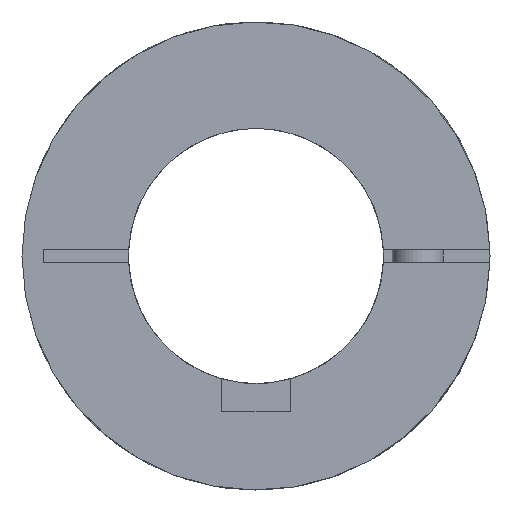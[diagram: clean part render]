
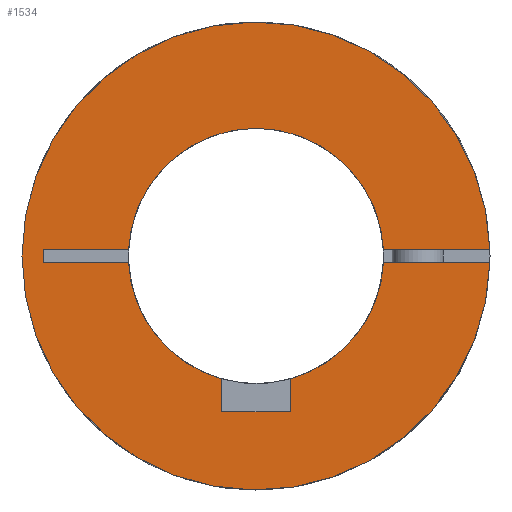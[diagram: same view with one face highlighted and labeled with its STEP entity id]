
A CAD part, left-side view. The second image highlights one B-rep face of the part: STEP entity #1534.
In plain terms, the highlighted planar face has unit normal (-1, 0, 0).
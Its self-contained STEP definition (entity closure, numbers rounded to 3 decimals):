
#51=PLANE('',#1747);
#138=LINE('',#2704,#245);
#141=LINE('',#2710,#248);
#142=LINE('',#2712,#249);
#154=LINE('',#2734,#261);
#158=LINE('',#2740,#265);
#169=LINE('',#2761,#276);
#170=LINE('',#2764,#277);
#195=LINE('',#2822,#302);
#245=VECTOR('',#2074,1.);
#248=VECTOR('',#2079,1.);
#249=VECTOR('',#2082,1.);
#261=VECTOR('',#2102,20.057);
#265=VECTOR('',#2110,22.546);
#276=VECTOR('',#2131,22.546);
#277=VECTOR('',#2134,20.057);
#302=VECTOR('',#2201,1.5);
#402=FACE_OUTER_BOUND('',#505,.T.);
#505=EDGE_LOOP('',(#1358,#1359,#1360,#1361,#1362,#1363,#1364,#1365,#1366,
#1367,#1368,#1369));
#615=CIRCLE('',#1670,27.5);
#640=CIRCLE('',#1705,15.);
#642=CIRCLE('',#1707,15.);
#643=CIRCLE('',#1709,15.);
#709=VERTEX_POINT('',#2504);
#710=VERTEX_POINT('',#2506);
#749=VERTEX_POINT('',#2677);
#750=VERTEX_POINT('',#2679);
#753=VERTEX_POINT('',#2685);
#754=VERTEX_POINT('',#2687);
#755=VERTEX_POINT('',#2691);
#756=VERTEX_POINT('',#2692);
#760=VERTEX_POINT('',#2702);
#762=VERTEX_POINT('',#2708);
#768=VERTEX_POINT('',#2732);
#774=VERTEX_POINT('',#2763);
#882=EDGE_CURVE('',#710,#709,#615,.T.);
#929=EDGE_CURVE('',#750,#749,#640,.T.);
#933=EDGE_CURVE('',#754,#753,#642,.T.);
#935=EDGE_CURVE('',#755,#756,#643,.T.);
#941=EDGE_CURVE('',#753,#760,#138,.T.);
#944=EDGE_CURVE('',#760,#762,#141,.T.);
#945=EDGE_CURVE('',#762,#750,#142,.T.);
#957=EDGE_CURVE('',#768,#749,#154,.T.);
#961=EDGE_CURVE('',#756,#710,#158,.T.);
#972=EDGE_CURVE('',#709,#754,#169,.T.);
#973=EDGE_CURVE('',#774,#755,#170,.T.);
#998=EDGE_CURVE('',#774,#768,#195,.T.);
#1358=ORIENTED_EDGE('',*,*,#929,.T.);
#1359=ORIENTED_EDGE('',*,*,#957,.F.);
#1360=ORIENTED_EDGE('',*,*,#998,.F.);
#1361=ORIENTED_EDGE('',*,*,#973,.T.);
#1362=ORIENTED_EDGE('',*,*,#935,.T.);
#1363=ORIENTED_EDGE('',*,*,#961,.T.);
#1364=ORIENTED_EDGE('',*,*,#882,.T.);
#1365=ORIENTED_EDGE('',*,*,#972,.T.);
#1366=ORIENTED_EDGE('',*,*,#933,.T.);
#1367=ORIENTED_EDGE('',*,*,#941,.T.);
#1368=ORIENTED_EDGE('',*,*,#944,.T.);
#1369=ORIENTED_EDGE('',*,*,#945,.T.);
#1534=ADVANCED_FACE('',(#402),#51,.T.);
#1670=AXIS2_PLACEMENT_3D('',#2507,#1965,#1966);
#1705=AXIS2_PLACEMENT_3D('',#2680,#2053,#2054);
#1707=AXIS2_PLACEMENT_3D('',#2688,#2059,#2060);
#1709=AXIS2_PLACEMENT_3D('',#2693,#2064,#2065);
#1747=AXIS2_PLACEMENT_3D('',#2823,#2202,#2203);
#1965=DIRECTION('center_axis',(-1.,0.,0.));
#1966=DIRECTION('ref_axis',(0.,1.,0.));
#2053=DIRECTION('center_axis',(1.,0.,0.));
#2054=DIRECTION('ref_axis',(0.,0.,-1.));
#2059=DIRECTION('center_axis',(1.,0.,0.));
#2060=DIRECTION('ref_axis',(0.,0.,-1.));
#2064=DIRECTION('center_axis',(1.,0.,0.));
#2065=DIRECTION('ref_axis',(0.,0.,-1.));
#2074=DIRECTION('',(0.,0.,-1.));
#2079=DIRECTION('',(0.,1.,0.));
#2082=DIRECTION('',(0.,0.,1.));
#2102=DIRECTION('',(0.,-1.,0.));
#2110=DIRECTION('',(0.,-1.,0.));
#2131=DIRECTION('',(0.,1.,0.));
#2134=DIRECTION('',(0.,-1.,0.));
#2201=DIRECTION('',(0.,0.,-1.));
#2202=DIRECTION('center_axis',(-1.,0.,0.));
#2203=DIRECTION('ref_axis',(0.,-1.,0.));
#2504=CARTESIAN_POINT('',(0.,-27.49,-0.75));
#2506=CARTESIAN_POINT('',(0.,-27.49,0.75));
#2507=CARTESIAN_POINT('Origin',(0.,0.,0.));
#2677=CARTESIAN_POINT('',(0.,14.981,-0.75));
#2679=CARTESIAN_POINT('',(0.,4.,-14.457));
#2680=CARTESIAN_POINT('Origin',(0.,0.,0.));
#2685=CARTESIAN_POINT('',(0.,-4.,-14.457));
#2687=CARTESIAN_POINT('',(0.,-14.981,-0.75));
#2688=CARTESIAN_POINT('Origin',(0.,0.,0.));
#2691=CARTESIAN_POINT('',(0.,14.981,0.75));
#2692=CARTESIAN_POINT('',(0.,-14.981,0.75));
#2693=CARTESIAN_POINT('Origin',(0.,0.,0.));
#2702=CARTESIAN_POINT('',(0.,-4.,-18.3));
#2704=CARTESIAN_POINT('',(0.,-4.,-7.075));
#2708=CARTESIAN_POINT('',(0.,4.,-18.3));
#2710=CARTESIAN_POINT('',(0.,0.,-18.3));
#2712=CARTESIAN_POINT('',(0.,4.,-7.075));
#2732=CARTESIAN_POINT('',(0.,25.,-0.75));
#2734=CARTESIAN_POINT('',(0.,25.,-0.75));
#2740=CARTESIAN_POINT('',(0.,-4.943,0.75));
#2761=CARTESIAN_POINT('',(0.,-27.49,-0.75));
#2763=CARTESIAN_POINT('',(0.,25.,0.75));
#2764=CARTESIAN_POINT('',(0.,25.,0.75));
#2822=CARTESIAN_POINT('',(0.,25.,0.75));
#2823=CARTESIAN_POINT('Origin',(0.,0.,-5.));
